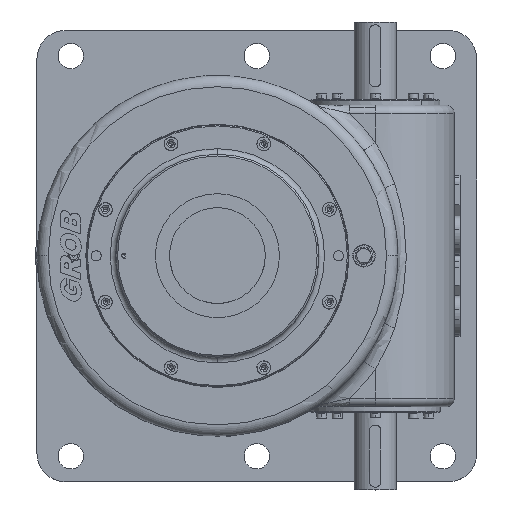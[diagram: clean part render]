
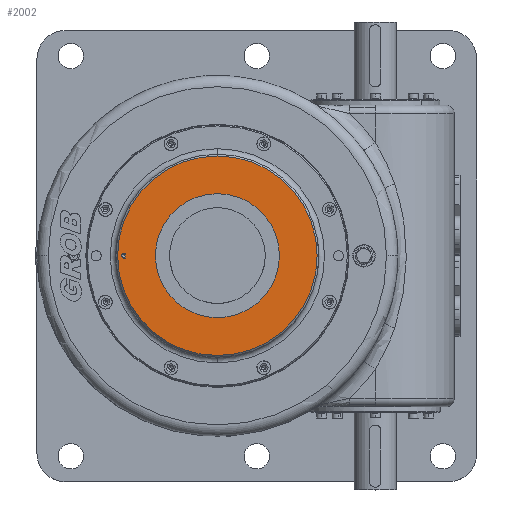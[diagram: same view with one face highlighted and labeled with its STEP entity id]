
A CAD part, top view. The second image highlights one B-rep face of the part: STEP entity #2002.
In plain terms, the highlighted planar face has unit normal (0, 0, 1).
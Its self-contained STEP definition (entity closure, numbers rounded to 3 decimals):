
#2002=ADVANCED_FACE('',(#6280,#6281),#6282,.T.);
#6280=FACE_OUTER_BOUND('',#11347,.T.);
#6281=FACE_BOUND('',#11348,.T.);
#6282=PLANE('',#11349);
#11347=EDGE_LOOP('',(#26803,#26804));
#11348=EDGE_LOOP('',(#26805,#26806,#26807));
#11349=AXIS2_PLACEMENT_3D('',#26808,#26809,#26810);
#26803=ORIENTED_EDGE('',*,*,#33126,.F.);
#26804=ORIENTED_EDGE('',*,*,#31783,.F.);
#26805=ORIENTED_EDGE('',*,*,#31815,.T.);
#26806=ORIENTED_EDGE('',*,*,#33114,.T.);
#26807=ORIENTED_EDGE('',*,*,#34416,.T.);
#26808=CARTESIAN_POINT('',(123.0,0.0,470.0));
#26809=DIRECTION('',(0.,0.,1.0));
#26810=DIRECTION('',(0.,1.0,0.));
#31783=EDGE_CURVE('',#39093,#39096,#39097,.T.);
#31815=EDGE_CURVE('',#39155,#39152,#39156,.T.);
#33114=EDGE_CURVE('',#39152,#41380,#41382,.T.);
#33126=EDGE_CURVE('',#39096,#39093,#41394,.T.);
#34416=EDGE_CURVE('',#41380,#39155,#43142,.T.);
#39093=VERTEX_POINT('',#51507);
#39096=VERTEX_POINT('',#51511);
#39097=CIRCLE('',#51512,177.0);
#39152=VERTEX_POINT('',#51653);
#39155=VERTEX_POINT('',#51657);
#39156=CIRCLE('',#51658,4.459);
#41380=VERTEX_POINT('',#55567);
#41382=CIRCLE('',#55570,4.459);
#41394=CIRCLE('',#55651,177.0);
#43142=CIRCLE('',#59828,163.631);
#51507=CARTESIAN_POINT('',(-177.0,0.,470.0));
#51511=CARTESIAN_POINT('',(177.0,0.0,470.0));
#51512=AXIS2_PLACEMENT_3D('',#65478,#65479,#65480);
#51653=CARTESIAN_POINT('',(-169.459,0.,470.0));
#51657=CARTESIAN_POINT('',(-163.577,-4.225,470.0));
#51658=AXIS2_PLACEMENT_3D('',#65524,#65525,#65526);
#55567=CARTESIAN_POINT('',(-163.577,4.225,470.0));
#55570=AXIS2_PLACEMENT_3D('',#68298,#68299,#68300);
#55651=AXIS2_PLACEMENT_3D('',#68322,#68323,#68324);
#59828=AXIS2_PLACEMENT_3D('',#70336,#70337,#70338);
#65478=CARTESIAN_POINT('',(0.,0.0,470.0));
#65479=DIRECTION('',(0.,0.,-1.0));
#65480=DIRECTION('',(-1.0,0.,0.));
#65524=CARTESIAN_POINT('',(-165.0,0.0,470.0));
#65525=DIRECTION('',(0.,0.,-1.0));
#65526=DIRECTION('',(0.,-1.0,0.));
#68298=CARTESIAN_POINT('',(-165.0,0.0,470.0));
#68299=DIRECTION('',(0.,0.,-1.0));
#68300=DIRECTION('',(0.,-1.0,0.));
#68322=CARTESIAN_POINT('',(0.,0.0,470.0));
#68323=DIRECTION('',(0.,0.,-1.0));
#68324=DIRECTION('',(-1.0,0.,0.));
#70336=CARTESIAN_POINT('',(0.,0.0,470.0));
#70337=DIRECTION('',(0.,0.,1.0));
#70338=DIRECTION('',(0.,1.0,0.));
